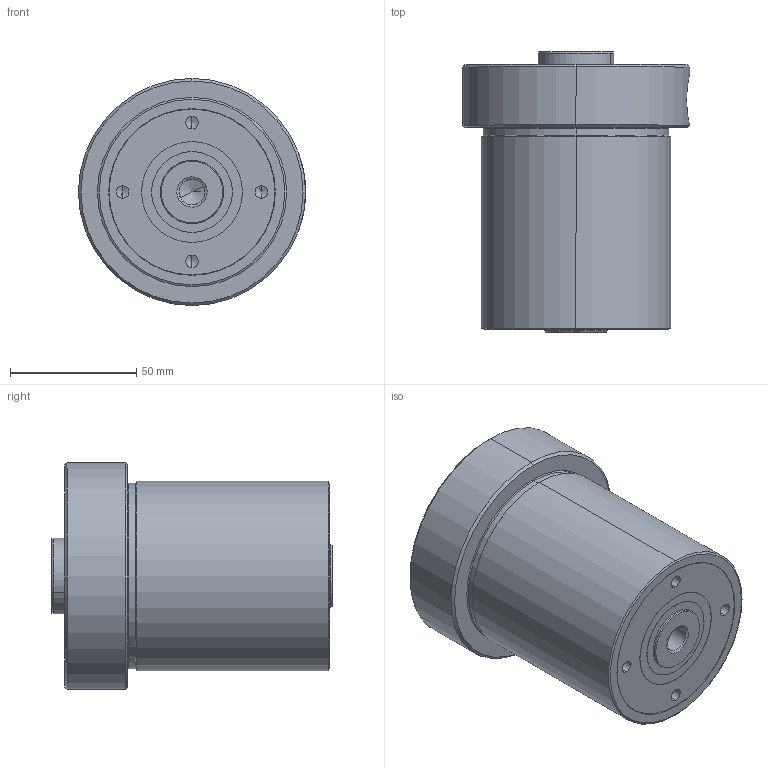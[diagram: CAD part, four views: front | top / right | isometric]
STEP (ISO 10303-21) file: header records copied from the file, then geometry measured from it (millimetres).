
FILE_DESCRIPTION (( 'STEP AP203' ), '1' );
FILE_NAME ('GERMA_Federspannzylinder_82-71-1.STEP', '2023-09-11T12:12:35', ( '' ), ( '' ), 'SwSTEP 2.0', 'SolidWorks 2016', '' );
FILE_SCHEMA (( 'CONFIG_CONTROL_DESIGN' ));
Length unit declared in the file: millimetre
Products named in the file (3): Kolben 82-71-1_Kolben 82-71-1; GERMA_Federspannzylinder_82-71-1; GH-82-71-1_GH-82-71-1
Assembly tree (2 placements, depth 2):
  GERMA_Federspannzylinder_82-71-1
    GH-82-71-1_GH-82-71-1
    Kolben 82-71-1_Kolben 82-71-1
Bounding box: 90 x 111 x 90 mm (x, y, z)
Volume: 492780.6 mm3; surface area: 72898.3 mm2
Topology: 2 solids, 2 shells, 137 faces, 296 edges, 171 vertices
Faces by surface type: cylinder 64, cone 46, plane 23, torus 4
Entity records: 3980 total; most frequent: DIRECTION 716, CARTESIAN_POINT 681, ORIENTED_EDGE 548, AXIS2_PLACEMENT_3D 303, EDGE_CURVE 274, VERTEX_POINT 169, EDGE_LOOP 167, CIRCLE 161
